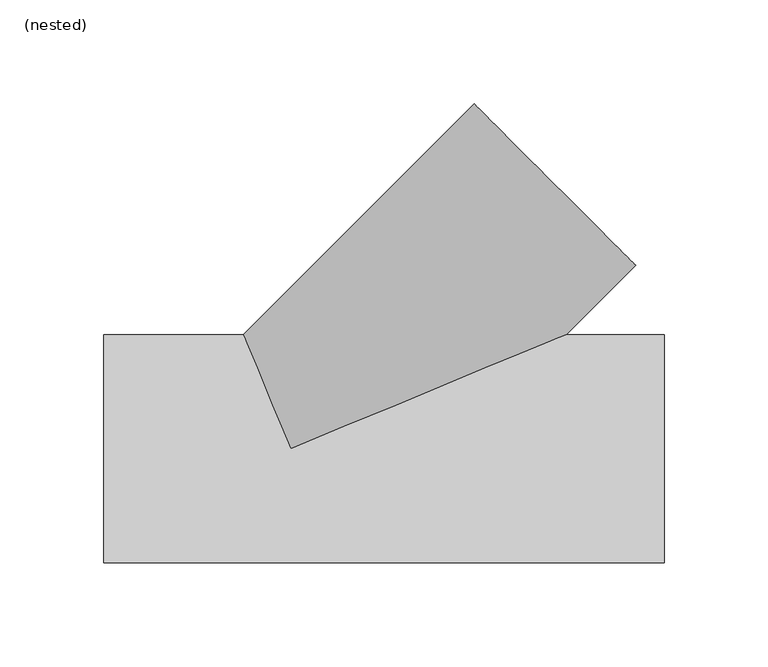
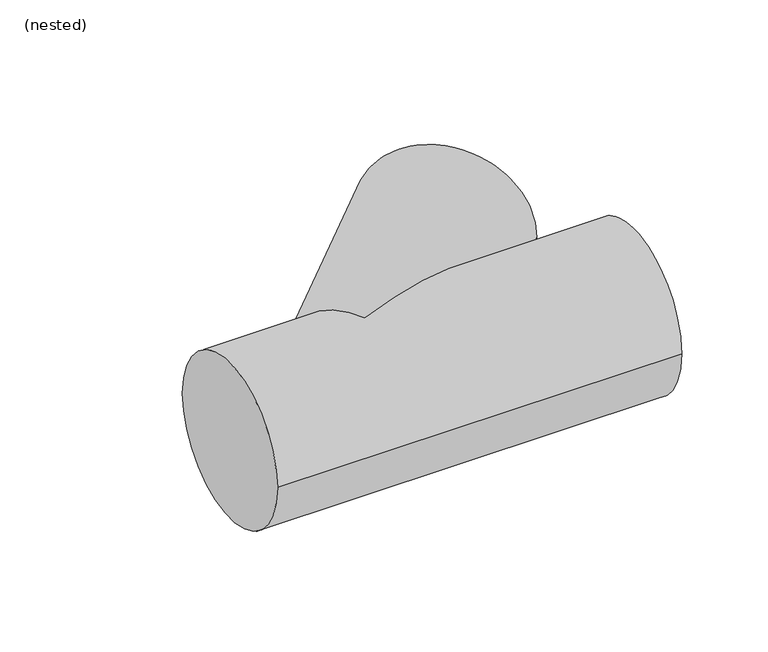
"""IFC4 building model written with IfcOpenShell, lengths in millimetres: pipe fitting geometry, NLRS_52_PIF_UN_PE T-stuk 45°_SH_geb : (nested)."""

from ifc_helpers import new_model, si_unit, frame, origin, place, context, project, spatial, circle_curve, ellipse_curve, source, transform, mapped, element, save
from ifc_brep_helpers import plane_surface, cylinder_surface, advanced_brep


def nested_21fb20ed(model_context):
    return source(origin(), model_context, "Body", "AdvancedBrep", [
        advanced_brep(
        [(180.0, -55.0, 0.0), (180.0, 55.0, 0.0), (-90.0, -55.0, 0.0), (-90.0, 55.0, 0.0), (-22.7817459, 55.0, 0.0), (0.0, 0.0, -55.0), (132.7817459, 55.0, 0.0), (0.0, 0.0, 55.0), (166.1700936, 88.3883476, 0.0), (88.3883476, 166.1700936, 0.0)],
        [
            (0, 1, circle_curve(frame((180.0, 0.0, 0.0), z_axis=(1.0, 0.0, 0.0), x_axis=(0.0, 1.0, 0.0)), 55.0)),
            (1, 0, circle_curve(frame((180.0, 0.0, 0.0), z_axis=(1.0, 0.0, 0.0), x_axis=(0.0, 1.0, 0.0)), 55.0)),
            (2, 3, circle_curve(frame((-90.0, 0.0, 0.0), z_axis=(-1.0, 0.0, 0.0), x_axis=(0.0, 1.0, 0.0)), 55.0)),
            (3, 2, circle_curve(frame((-90.0, 0.0, 0.0), z_axis=(-1.0, 0.0, 0.0), x_axis=(0.0, 1.0, 0.0)), 55.0)),
            (0, 2),
            (3, 4),
            (4, 5, ellipse_curve(frame((0.0, 0.0, 0.0), z_axis=(-0.923879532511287, -0.38268343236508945, 0.0), x_axis=(0.38268343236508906, -0.9238795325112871, 0.0)), 59.531571, 55.0)),
            (5, 6, ellipse_curve(frame((0.0, 0.0, 0.0), z_axis=(0.3826834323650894, -0.9238795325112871, 0.0), x_axis=(0.923879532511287, 0.38268343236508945, 0.0)), 143.7219261, 55.0)),
            (6, 1),
            (6, 7, ellipse_curve(frame((0.0, 0.0, 0.0), z_axis=(0.3826834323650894, -0.9238795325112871, 0.0), x_axis=(0.923879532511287, 0.38268343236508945, 0.0)), 143.7219261, 55.0)),
            (7, 4, ellipse_curve(frame((0.0, 0.0, 0.0), z_axis=(-0.923879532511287, -0.38268343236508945, 0.0), x_axis=(0.38268343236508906, -0.9238795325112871, 0.0)), 59.531571, 55.0)),
            (8, 9, circle_curve(frame((127.2792206, 127.2792206, 0.0), z_axis=(0.7071067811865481, 0.707106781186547, 0.0), x_axis=(-0.707106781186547, 0.7071067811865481, 0.0)), 55.0)),
            (9, 8, circle_curve(frame((127.2792206, 127.2792206, 0.0), z_axis=(0.7071067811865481, 0.707106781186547, 0.0), x_axis=(-0.707106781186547, 0.7071067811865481, 0.0)), 55.0)),
            (9, 4),
            (6, 8),
        ],
        [
            plane_surface(frame((180.0, 55.0, 0.0), z_axis=(1.0, 0.0, 0.0), x_axis=(0.0, 0.0, 1.0))),
            plane_surface(frame((-90.0, 55.0, 0.0), z_axis=(-1.0, 0.0, 0.0), x_axis=(0.0, 0.0, -1.0))),
            cylinder_surface(frame((-90.0, 0.0, 0.0), z_axis=(1.0, 0.0, 0.0), x_axis=(0.0, 1.0, 0.0)), 55.0),
            plane_surface(frame((127.2792206, 127.2792206, 0.0), z_axis=(0.7071067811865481, 0.707106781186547, 0.0), x_axis=(0.0, 0.0, 1.0))),
            cylinder_surface(frame((0.0, 0.0, 0.0), z_axis=(-0.7071067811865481, -0.707106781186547, 0.0), x_axis=(-0.707106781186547, 0.7071067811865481, 0.0)), 55.0),
        ],
        [
            (0, [[1, 2]]),
            (1, [[3, 4]]),
            (2, [[-1, 5, -4, 6, 7, 8, 9]]),
            (2, [[-2, -9, 10, 11, -6, -3, -5]]),
            (3, [[12, 13]]),
            (4, [[-13, 14, -11, -10, 15]]),
            (4, [[-12, -15, -8, -7, -14]]),
        ],
    ),
    ])


if __name__ == "__main__":
    model = new_model("IFC4")
    model_context = context("Model", 3, world=origin())
    ifc_project = project(units=[si_unit("LENGTHUNIT", "METRE", prefix="MILLI")], contexts=[model_context])
    site = spatial("IfcSite", under=ifc_project)
    building = spatial("IfcBuilding", under=site)
    placement = place(None, origin())
    nested_shape = nested_21fb20ed(model_context)
    element("IfcPipeFitting", 1, ObjectType="NLRS_52_PIF_UN_PE T-stuk 45°_SH_geb : (nested)", at=placement, inside=building, context=model_context, shape_type="MappedRepresentation", body=[
        mapped(nested_shape, transform((0.0, 0.0, 0.0), x_axis=(1.0, 0.0, 0.0), y_axis=(0.0, 1.0, 0.0), z_axis=(0.0, 0.0, 1.0))),
    ])
    save(model, "model.ifc")
